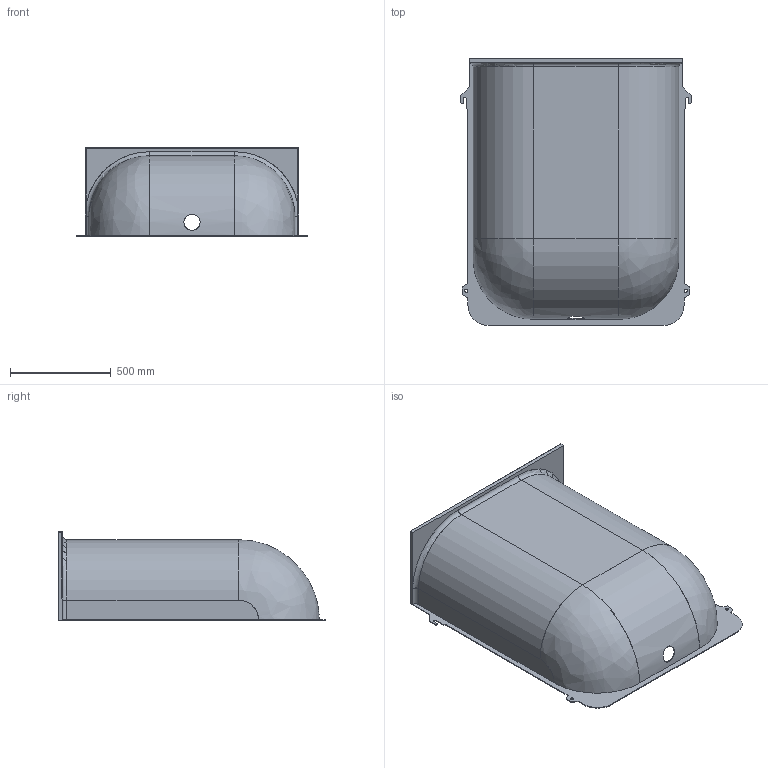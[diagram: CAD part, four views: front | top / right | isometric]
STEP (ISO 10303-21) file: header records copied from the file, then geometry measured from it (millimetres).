
FILE_DESCRIPTION(/* description */ (''),/* implementation_level */ '2;1');
FILE_NAME(/* name */ 'Q:\sge-bs-neu-2008\Marketing\CAD Zeichnungen\3D-CAD-Daten\3D Daten Website\- MEA Multinorm Kunststofflichtschacht\Step\Multinorm_100x130x40.stp',/* time_stamp */ '2019-02-14T10:57:56+01:00',/* author */ ('avgrahammj'),/* organization */ (''),/* preprocessor_version */ 'ST-DEVELOPER v16.1',/* originating_system */ 'Autodesk Inventor 2016',/* authorisation */ '');
FILE_SCHEMA (('AUTOMOTIVE_DESIGN { 1 0 10303 214 3 1 1 }'));
Length unit declared in the file: millimetre
Products named in the file (1): Multinorm_100x130x40
Bounding box: 1142 x 1322 x 440 mm (x, y, z)
Volume: 9247510.1 mm3; surface area: 4649122.7 mm2
Topology: 1 solids, 1 shells, 71 faces, 195 edges, 126 vertices
Faces by surface type: plane 40, cylinder 23, torus 4, bspline 4
Full cylindrical faces by diameter (mm): 16 x2, 80 x1
Entity records: 2488 total; most frequent: CARTESIAN_POINT 642, ORIENTED_EDGE 384, DIRECTION 374, EDGE_CURVE 192, LINE 130, VECTOR 130, VERTEX_POINT 126, AXIS2_PLACEMENT_3D 122
